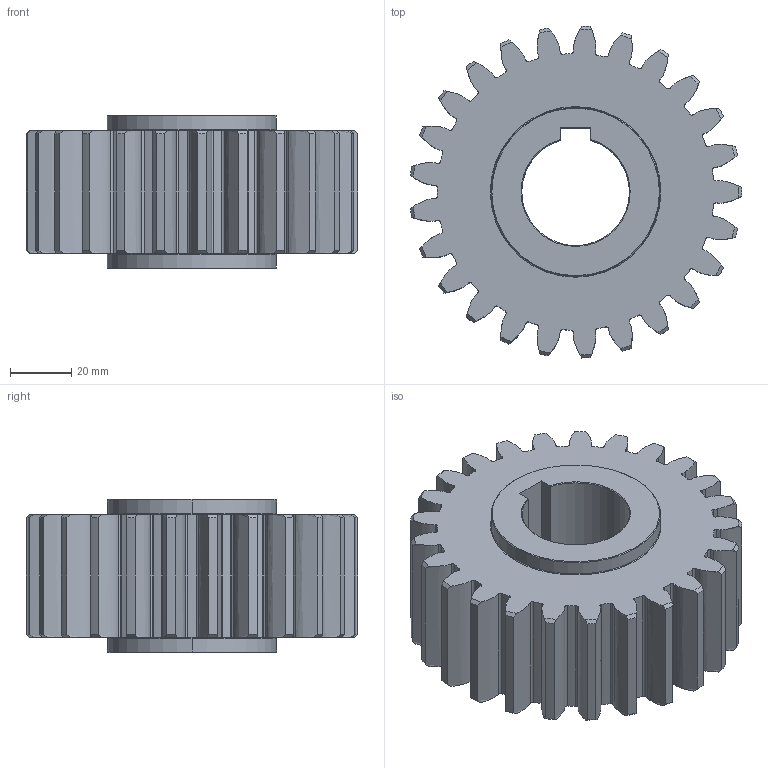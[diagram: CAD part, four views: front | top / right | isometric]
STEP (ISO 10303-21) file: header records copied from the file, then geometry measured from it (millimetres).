
FILE_DESCRIPTION (( 'STEP AP214' ), '1' );
FILE_NAME ('1SG__S040025S.STEP', '2021-08-03T07:50:11', ( '' ), ( '' ), 'SwSTEP 2.0', 'SolidWorks 2021', '' );
FILE_SCHEMA (( 'AUTOMOTIVE_DESIGN' ));
Length unit declared in the file: millimetre
Products named in the file (1): 1SG__S040025S
Bounding box: 107.74 x 107.93 x 50 mm (x, y, z)
Volume: 282580.4 mm3; surface area: 46387.4 mm2
Topology: 1 solids, 1 shells, 268 faces, 830 edges, 566 vertices
Faces by surface type: cylinder 96, bspline 75, cone 61, plane 32, torus 4
Entity records: 16702 total; most frequent: CARTESIAN_POINT 9552, ORIENTED_EDGE 1660, DIRECTION 1326, EDGE_CURVE 830, VERTEX_POINT 566, AXIS2_PLACEMENT_3D 506, VECTOR 314, LINE 314
